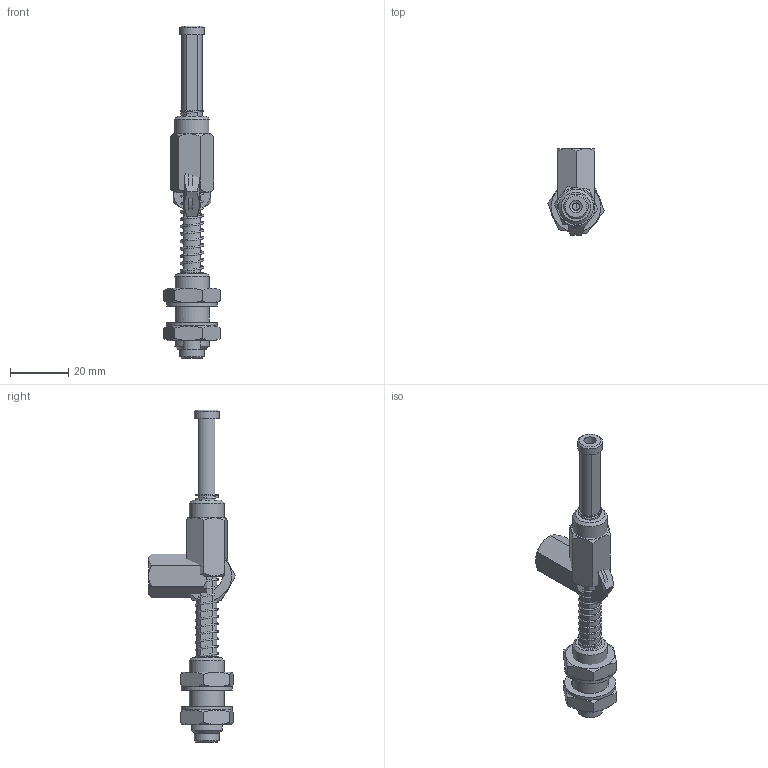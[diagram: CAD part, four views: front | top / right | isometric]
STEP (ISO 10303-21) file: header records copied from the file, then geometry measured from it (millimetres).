
FILE_DESCRIPTION( ( 'STEP AP214' ), '1' );
FILE_NAME( 'C:/Users/Segreteria/Desktop/CA.05.01.009.stp', '2014-07-02T10:43:14', ( ' ' ), ( ' ' ), 'XStep 1.0', ' ', ' ' );
FILE_SCHEMA( ( 'CONFIG_CONTROL_DESIGN) ( )' ) );
Length unit declared in the file: metre
Products named in the file (17): Assem1; DADO M12x1.25; M.8x35.6N; 05-01-005-01-18; 05.01.005.03; 05.01.005.05; R.12.SCH
Bounding box: 19.46 x 29.82 x 114 mm (x, y, z)
Volume: 14047.2 mm3; surface area: 14540.8 mm2
Topology: 34 solids, 34 shells, 267 faces, 549 edges, 348 vertices
Faces by surface type: plane 120, cone 68, torus 48, cylinder 31
Full cylindrical faces by diameter (mm): 2.5 x2, 4.134 x2, 4.2 x4, 5 x2, 7 x2, 8.5 x2, 8.566 x2, 10.647 x3, 12 x2, 13 x3, 17.5 x3
Entity records: 3542 total; most frequent: CARTESIAN_POINT 876, DIRECTION 510, ORIENTED_EDGE 372, AXIS2_PLACEMENT_3D 236, EDGE_CURVE 186, EDGE_LOOP 176, FACE_OUTER_BOUND 157, VERTEX_POINT 138
